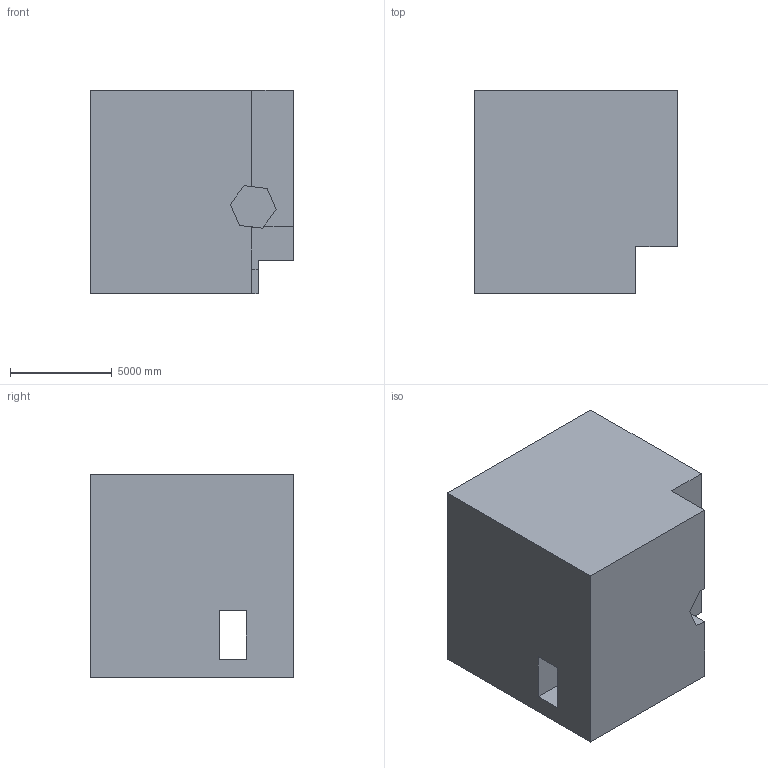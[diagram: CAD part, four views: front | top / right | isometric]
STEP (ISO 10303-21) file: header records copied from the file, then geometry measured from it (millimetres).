
FILE_DESCRIPTION (( 'STEP AP203' ), '1' );
FILE_NAME ('1673.STEP', '2022-08-19T11:35:55', ( 'user' ), ( '' ), 'SwSTEP 2.0', 'SolidWorks 2021', '' );
FILE_SCHEMA (( 'CONFIG_CONTROL_DESIGN' ));
Length unit declared in the file: centimetre
Products named in the file (1): 1673
Bounding box: 10000 x 10000 x 10000 mm (x, y, z)
Volume: 868254031937.8 mm3; surface area: 654436008.7 mm2
Topology: 1 solids, 1 shells, 36 faces, 114 edges, 76 vertices
Faces by surface type: plane 33, cylinder 3
Entity records: 1338 total; most frequent: ORIENTED_EDGE 228, CARTESIAN_POINT 227, DIRECTION 199, EDGE_CURVE 114, VECTOR 103, LINE 103, VERTEX_POINT 76, AXIS2_PLACEMENT_3D 48
